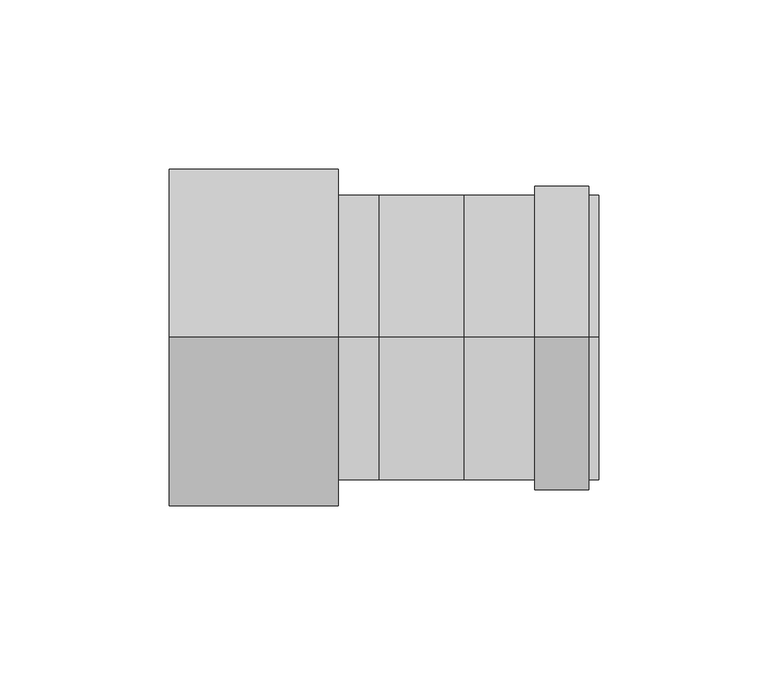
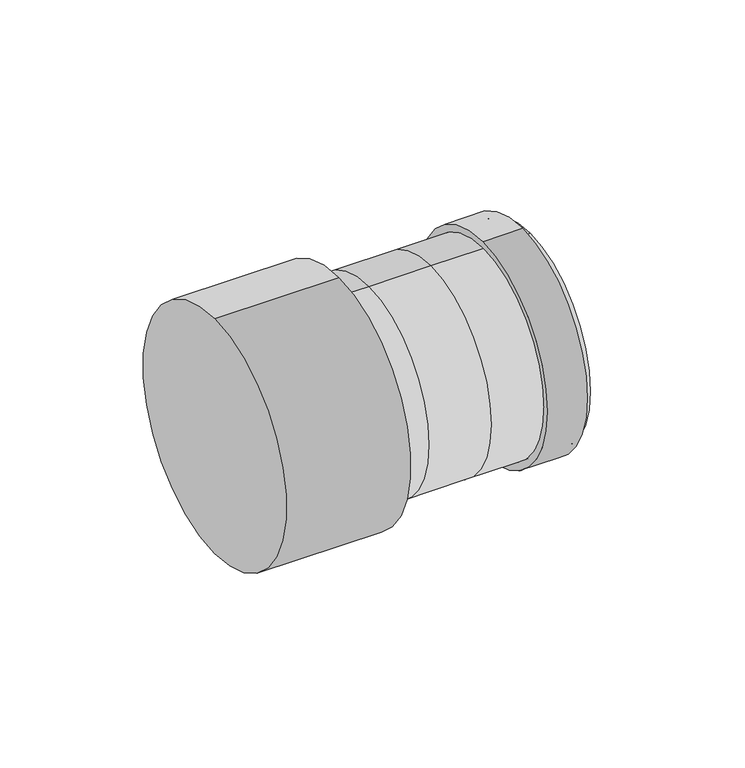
"""IFC4 building model written with IfcOpenShell, lengths in millimetres: duct fitting geometry, DERS_431_LFT_UN_Twinline Reducer_M&G : ø080-100-150-200."""

from ifc_helpers import new_model, si_unit, point, frame, origin, origin_2d, place, context, project, spatial, polyline, circle_curve, trimmed, segment, composite_curve, outline, extrude, source, transform, mapped, element, save
from ifc_brep_helpers import plane_surface, cylinder_surface, revolved_surface, advanced_brep


def duct_fitting_2964ce86(model_context):
    return source(origin(), model_context, "Body", "SolidModel", [
        advanced_brep(
        [(50.0, 0.0, 42.0), (50.0, 0.0, -42.0), (62.0, 0.0, -42.0), (62.0, 0.0, 42.0), (87.0, 0.0, 40.0), (87.0, 0.0, -40.0), (87.0, 0.0, 42.0), (87.0, 0.0, -42.0), (127.0, 0.0, 42.0), (127.0, 0.0, -42.0), (127.0, 0.0, -40.0), (127.0, 0.0, 40.0)],
        [
            (0, 1, circle_curve(frame((50.0, 0.0, 0.0), z_axis=(-1.0, 0.0, 0.0), x_axis=(0.0, 0.0, -1.0)), 42.0)),
            (1, 0, circle_curve(frame((50.0, 0.0, 0.0), z_axis=(-1.0, 0.0, 0.0), x_axis=(0.0, 0.0, -1.0)), 42.0)),
            (1, 2),
            (2, 3, circle_curve(frame((62.0, 0.0, 0.0), z_axis=(-1.0, 0.0, 0.0), x_axis=(0.0, 0.0, -1.0)), 42.0)),
            (3, 0),
            (3, 2, circle_curve(frame((62.0, 0.0, 0.0), z_axis=(-1.0, 0.0, 0.0), x_axis=(0.0, 0.0, -1.0)), 42.0)),
            (4, 5, circle_curve(frame((87.0, 0.0, 0.0), z_axis=(1.0, 0.0, 0.0), x_axis=(0.0, 0.0, 1.0)), 40.0)),
            (5, 4, circle_curve(frame((87.0, 0.0, 0.0), z_axis=(1.0, 0.0, 0.0), x_axis=(0.0, 0.0, 1.0)), 40.0)),
            (6, 3),
            (2, 7),
            (7, 6, circle_curve(frame((87.0, 0.0, 0.0), z_axis=(-1.0, 0.0, 0.0), x_axis=(0.0, 0.0, -1.0)), 42.0)),
            (6, 7, circle_curve(frame((87.0, 0.0, 0.0), z_axis=(-1.0, 0.0, 0.0), x_axis=(0.0, 0.0, -1.0)), 42.0)),
            (8, 9, circle_curve(frame((127.0, 0.0, 0.0), z_axis=(1.0, 0.0, 0.0), x_axis=(0.0, 0.0, -1.0)), 42.0)),
            (9, 8, circle_curve(frame((127.0, 0.0, 0.0), z_axis=(1.0, 0.0, 0.0), x_axis=(0.0, 0.0, -1.0)), 42.0)),
            (10, 11, circle_curve(frame((127.0, 0.0, 0.0), z_axis=(-1.0, 0.0, 0.0), x_axis=(0.0, 0.0, 1.0)), 40.0)),
            (11, 10, circle_curve(frame((127.0, 0.0, 0.0), z_axis=(-1.0, 0.0, 0.0), x_axis=(0.0, 0.0, 1.0)), 40.0)),
            (8, 6),
            (7, 9),
            (10, 5),
            (4, 11),
        ],
        [
            plane_surface(frame((50.0, 0.0, -42.0), z_axis=(-1.0, 0.0, 0.0), x_axis=(0.0, -1.0, 0.0))),
            cylinder_surface(frame((50.0, 0.0, 0.0), z_axis=(1.0, 0.0, 0.0), x_axis=(0.0, 0.0, -1.0)), 42.0),
            plane_surface(frame((87.0, 0.0, -42.0), z_axis=(1.0, 0.0, 0.0), x_axis=(0.0, 1.0, 0.0))),
            cylinder_surface(frame((62.0, 0.0, 0.0), z_axis=(1.0, 0.0, 0.0), x_axis=(0.0, 0.0, -1.0)), 42.0),
            plane_surface(frame((127.0, 0.0, -42.0), z_axis=(1.0, 0.0, 0.0), x_axis=(0.0, 1.0, 0.0))),
            cylinder_surface(frame((87.0, 0.0, 0.0), z_axis=(1.0, 0.0, 0.0), x_axis=(0.0, 0.0, -1.0)), 42.0),
            revolved_surface(polyline([(87.0, 0.0, 40.0), (127.0, 0.0, 40.0)]), (137.0, 0.0, 0.0), (-1.0, 0.0, 0.0)),
        ],
        [
            (0, [[1, 2]]),
            (1, [[-2, 3, 4, 5]]),
            (1, [[-1, -5, 6, -3]]),
            (2, [[7, 8]]),
            (3, [[9, -4, 10, 11]]),
            (3, [[-9, 12, -10, -6]]),
            (4, [[13, 14], [15, 16]]),
            (5, [[-13, 17, -11, 18]]),
            (5, [[-14, -18, -12, -17]]),
            (6, [[19, -7, 20, -15]]),
            (6, [[-19, -16, -20, -8]]),
        ],
    ),
        extrude(outline(composite_curve([segment(trimmed(circle_curve(origin_2d(), 45.0), [point((0.0, 45.0))], [point((0.0, -45.0))], False, "CARTESIAN"), True, "CONTINUOUS"), segment(trimmed(circle_curve(origin_2d(), 45.0), [point((0.0, -45.0))], [point((0.0, 45.0))], False, "CARTESIAN"), True, "CONTINUOUS")], self_intersect=False), holes=[composite_curve([segment(trimmed(circle_curve(origin_2d(), 42.0), [point((0.0, -42.0))], [point((0.0, 42.0))], True, "CARTESIAN"), True, "CONTINUOUS"), segment(trimmed(circle_curve(origin_2d(), 42.0), [point((0.0, 42.0))], [point((0.0, -42.0))], True, "CARTESIAN"), True, "CONTINUOUS")], self_intersect=False)]), frame((108.0, 0.0, 0.0), z_axis=(1.0, 0.0, 0.0), x_axis=(0.0, 1.0, 0.0)), (0.0, 0.0, 1.0), 16.0),
        extrude(outline(composite_curve([segment(trimmed(circle_curve(origin_2d(), 50.0), [point((0.0, -50.0))], [point((0.0, 50.0))], False, "CARTESIAN"), True, "CONTINUOUS"), segment(trimmed(circle_curve(origin_2d(), 50.0), [point((0.0, 50.0))], [point((0.0, -50.0))], False, "CARTESIAN"), True, "CONTINUOUS")], self_intersect=False)), frame((0.0, 0.0, 0.0), z_axis=(1.0, 0.0, 0.0), x_axis=(0.0, 1.0, 0.0)), (0.0, 0.0, 1.0), 50.0),
    ])


if __name__ == "__main__":
    model = new_model("IFC4")
    model_context = context("Model", 3, world=origin())
    ifc_project = project(units=[si_unit("LENGTHUNIT", "METRE", prefix="MILLI")], contexts=[model_context])
    site = spatial("IfcSite", under=ifc_project)
    building = spatial("IfcBuilding", under=site)
    placement = place(None, origin())
    duct_fitting_shape = duct_fitting_2964ce86(model_context)
    element("IfcDuctFitting", 1, ObjectType="DERS_431_LFT_UN_Twinline Reducer_M&G : ø080-100-150-200", at=placement, inside=building, context=model_context, shape_type="MappedRepresentation", body=[
        mapped(duct_fitting_shape, transform((0.0, 0.0, 0.0), x_axis=(1.0, 0.0, 0.0), y_axis=(0.0, 1.0, 0.0), z_axis=(0.0, 0.0, 1.0))),
    ])
    save(model, "model.ifc")
